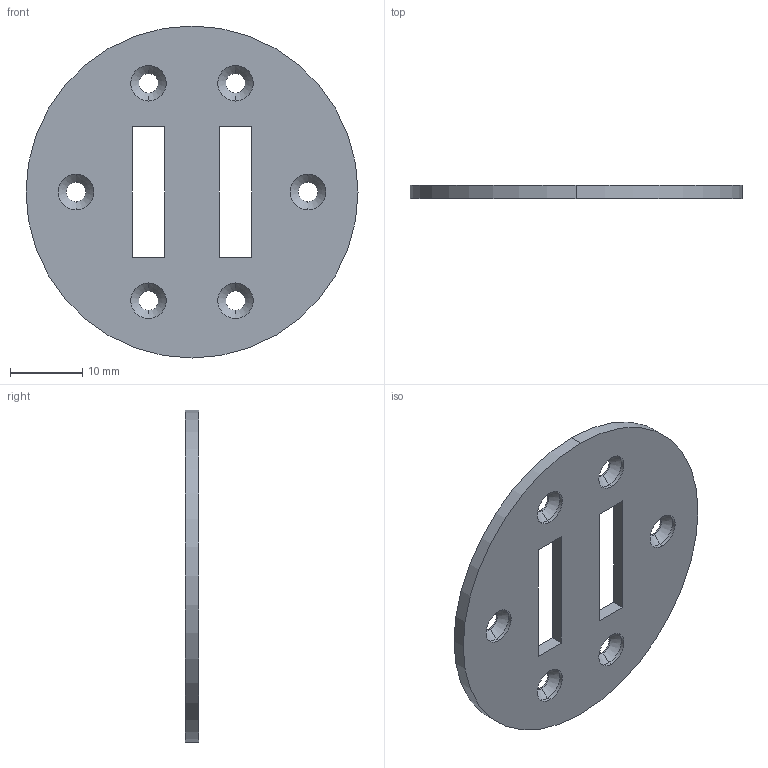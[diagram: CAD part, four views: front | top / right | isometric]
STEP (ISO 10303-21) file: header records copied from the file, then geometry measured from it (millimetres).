
FILE_DESCRIPTION(/* description */ ('VariCAD 2010-3.03 AP-214'),/* implementation_level */ '2;1');
FILE_NAME(/* name */ '0353-13-20',/* time_stamp */ '2011-03-03T19:06:17-07:00',/* author */ (''),/* organization */ (''),/* preprocessor_version */ 'ST-DEVELOPER v12',/* originating_system */ 'VariCAD 2010-3.03; kernel version (20100102)',/* authorisation */ '');
FILE_SCHEMA (('AUTOMOTIVE_DESIGN'));
Length unit declared in the file: millimetre
Products named in the file (1): Part
Bounding box: 45.8 x 1.8 x 45.8 mm (x, y, z)
Volume: 2533.5 mm3; surface area: 3412.2 mm2
Topology: 1 solids, 1 shells, 48 faces, 114 edges, 68 vertices
Faces by surface type: cylinder 26, cone 12, plane 10
Entity records: 1437 total; most frequent: DIRECTION 266, CARTESIAN_POINT 232, ORIENTED_EDGE 228, EDGE_CURVE 114, AXIS2_PLACEMENT_3D 102, VERTEX_POINT 68, EDGE_LOOP 64, LINE 62
